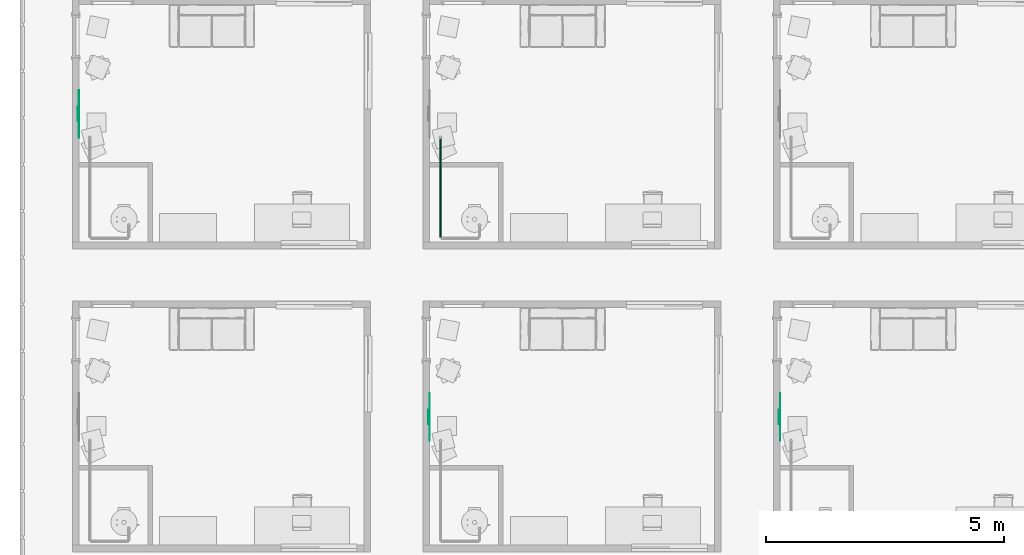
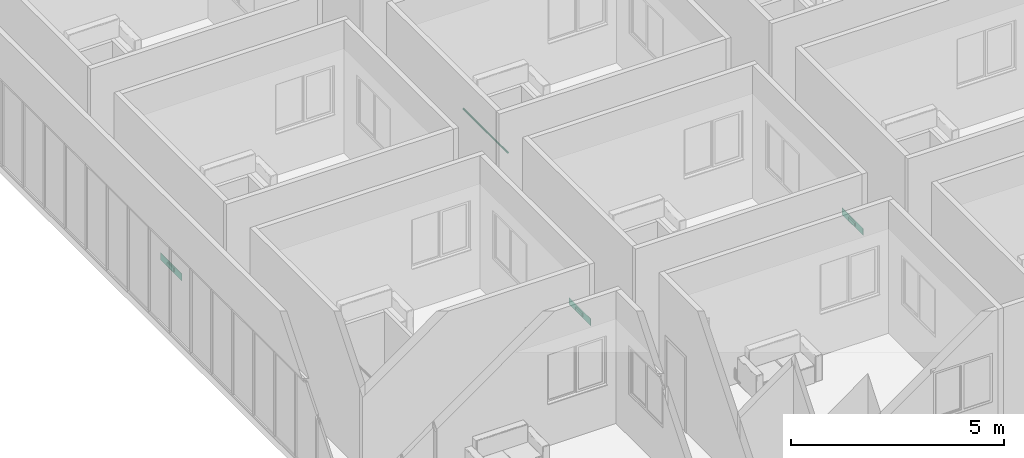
# One storey, part 18 of 72: 3 air terminals, 1 pipe segment.
"""IFC4 building model written with IfcOpenShell, lengths in centimetres."""

import ifcopenshell
import ifcopenshell.guid

model = None  # the IFC model being written
_history = None  # IfcOwnerHistory: only IFC2X3 demands one
_inside = {}  # id of a spatial element -> (the spatial element, [elements in it])
_under = {}  # id of a project, library or spatial element -> (it, [spatial elements below it])
_declared = {}  # id of a project -> (the project, [libraries it declares])
_typed = {}  # id of a type object -> (the type object, [elements of that type])
_made_of = {}  # id of a material, layer set ... -> (it, [elements and type objects made of it])


def new_model(schema):
    """Start an empty IFC model of exactly this schema.

    Asked for "IFC4X3", IfcOpenShell would pick the latest addendum, in which some entities
    have other attributes; the version numbers below select the first issue.
    IFC2X3 requires an IfcOwnerHistory on every rooted entity: one is made here for all.
    """
    global model, _history
    if schema == "IFC4X3":
        model = ifcopenshell.file(schema_version=(4, 3, 0, 0))
    else:
        model = ifcopenshell.file(schema=schema)
    _inside.clear()
    _under.clear()
    _declared.clear()
    _typed.clear()
    _made_of.clear()
    _history = None
    if model.schema == "IFC2X3":
        org = make("IfcOrganization", Name="unknown")
        user = make(
            "IfcPersonAndOrganization",
            ThePerson=make("IfcPerson", FamilyName="unknown"),
            TheOrganization=org,
        )
        app = make(
            "IfcApplication",
            ApplicationDeveloper=org,
            Version="unknown",
            ApplicationFullName="unknown",
            ApplicationIdentifier="unknown",
        )
        _history = make(
            "IfcOwnerHistory",
            OwningUser=user,
            OwningApplication=app,
            ChangeAction="ADDED",
            CreationDate=0,
        )
    return model


def make(cls, **values):
    """One entity of the class cls with the attributes given. An attribute that is None is left unset."""
    return model.create_entity(
        cls, **{name: value for name, value in values.items() if value is not None}
    )


def entity(cls, *values):
    """Any entity or typed value of the class cls, its attributes in the order of the schema. None: left unset."""
    e = model.create_entity(cls)
    for i, value in enumerate(values):
        if value is not None:
            e[i] = value
    return e


def rooted(cls, **values):
    """An entity with a GlobalId (a new one), such as an element, a storey or a relation."""
    return make(cls, GlobalId=ifcopenshell.guid.new(), OwnerHistory=_history, **values)


def si_unit(unit_type, name, prefix=None):
    """IfcSIUnit, for example si_unit("LENGTHUNIT", "METRE", prefix="MILLI")."""
    return make("IfcSIUnit", UnitType=unit_type, Prefix=prefix, Name=name)


def converted_unit(unit_type, name, factor, base, dimensions=None, offset=None):
    """IfcConversionBasedUnit, such as the inch: factor (a typed value) times the base unit."""
    return make(
        "IfcConversionBasedUnit"
        if offset is None
        else "IfcConversionBasedUnitWithOffset",
        ConversionOffset=offset,
        Dimensions=None
        if dimensions is None
        else entity("IfcDimensionalExponents", *dimensions),
        UnitType=unit_type,
        Name=name,
        ConversionFactor=make(
            "IfcMeasureWithUnit", ValueComponent=factor, UnitComponent=base
        ),
    )


def derived_unit(unit_type, elements):
    """IfcDerivedUnit: a product of units, each with its exponent."""
    return make(
        "IfcDerivedUnit",
        Elements=[
            make("IfcDerivedUnitElement", Unit=unit, Exponent=power)
            for unit, power in elements
        ],
        UnitType=unit_type,
    )


def assignment(units):
    """IfcUnitAssignment: the units of a project."""
    return None if units is None else make("IfcUnitAssignment", Units=units)


def point(xyz):
    """IfcCartesianPoint."""
    return None if xyz is None else make("IfcCartesianPoint", Coordinates=xyz)


def direction(xyz):
    """IfcDirection."""
    return None if xyz is None else make("IfcDirection", DirectionRatios=xyz)


def frame(location, z_axis=None, x_axis=None):
    """IfcAxis2Placement3D, a coordinate frame: its origin and axes. An axis left out is left unset."""
    return make(
        "IfcAxis2Placement3D",
        Location=point(location),
        Axis=direction(z_axis),
        RefDirection=direction(x_axis),
    )


def origin():
    """The frame at (0, 0, 0) with its axes left unset."""
    return frame((0.0, 0.0, 0.0))


def place(relative_to, where):
    """IfcLocalPlacement: puts the frame where relative to a parent placement (None: the world)."""
    return make(
        "IfcLocalPlacement", PlacementRelTo=relative_to, RelativePlacement=where
    )


def context(
    kind, dimensions, precision=None, world=None, true_north=None, identifier=None
):
    """IfcGeometricRepresentationContext, for example the 3D "Model" context."""
    return make(
        "IfcGeometricRepresentationContext",
        ContextIdentifier=identifier,
        ContextType=kind,
        CoordinateSpaceDimension=dimensions,
        Precision=precision,
        WorldCoordinateSystem=world,
        TrueNorth=true_north,
    )


def subcontext(parent, identifier, kind, view, scale=None):
    """IfcGeometricRepresentationSubContext, for example "Body" below "Model"."""
    return make(
        "IfcGeometricRepresentationSubContext",
        ContextIdentifier=identifier,
        ContextType=kind,
        ParentContext=parent,
        TargetScale=scale,
        TargetView=view,
    )


def project(units=None, contexts=None):
    """IfcProject with its units and contexts."""
    return rooted(
        "IfcProject",
        Name="project",
        RepresentationContexts=contexts,
        UnitsInContext=assignment(units),
    )


def spatial(cls, under=None, at=None, **own):
    """A site, building, storey or space (cls), placed at a placement, below another one or the project."""
    s = rooted(cls, ObjectPlacement=at, **own)
    if under is not None:
        _under.setdefault(under.id(), (under, []))[1].append(s)
    return s


def point_list(points):
    """IfcCartesianPointList2D or 3D."""
    cls = (
        "IfcCartesianPointList2D" if len(points[0]) == 2 else "IfcCartesianPointList3D"
    )
    return make(cls, CoordList=points)


def arc(*indices):
    """IfcArcIndex: an arc through three numbered points of an indexed curve."""
    return model.create_entity("IfcArcIndex", indices)


def indexed_curve(points, segments=None, self_intersect=None):
    """IfcIndexedPolyCurve: lines and arcs through numbered points (the first is 1)."""
    return make(
        "IfcIndexedPolyCurve",
        Points=point_list(points),
        Segments=segments,
        SelfIntersect=self_intersect,
    )


def outline(outer, holes=None, kind="AREA"):
    """IfcArbitraryClosedProfileDef: a profile drawn as a closed curve; with holes, ...WithVoids."""
    if holes is None:
        return make("IfcArbitraryClosedProfileDef", ProfileType=kind, OuterCurve=outer)
    return make(
        "IfcArbitraryProfileDefWithVoids",
        ProfileType=kind,
        OuterCurve=outer,
        InnerCurves=holes,
    )


def extrude(swept, where, along, depth):
    """IfcExtrudedAreaSolid: the profile swept, set in the frame where, extruded along a direction by depth."""
    return make(
        "IfcExtrudedAreaSolid",
        SweptArea=swept,
        Position=where,
        ExtrudedDirection=direction(along),
        Depth=depth,
    )


def shape(context_of_items, identifier, shape_type, items):
    """IfcShapeRepresentation: the items that make up one representation, for example the "Body"."""
    return make(
        "IfcShapeRepresentation",
        ContextOfItems=context_of_items,
        RepresentationIdentifier=identifier,
        RepresentationType=shape_type,
        Items=items,
    )


def source(mapping_origin, context_of_items, identifier, shape_type, items):
    """IfcRepresentationMap: a shape defined once, which mapped items show again and again."""
    return make(
        "IfcRepresentationMap",
        MappingOrigin=mapping_origin,
        MappedRepresentation=shape(context_of_items, identifier, shape_type, items),
    )


def transform(
    local_origin,
    x_axis=None,
    y_axis=None,
    z_axis=None,
    scale=None,
    scale2=None,
    scale3=None,
    uniform=True,
):
    """IfcCartesianTransformationOperator3D, or its non-uniform kind. x_axis, y_axis, z_axis: its Axis1, 2, 3."""
    if uniform:
        return make(
            "IfcCartesianTransformationOperator3D",
            Axis1=direction(x_axis),
            Axis2=direction(y_axis),
            LocalOrigin=point(local_origin),
            Scale=scale,
            Axis3=direction(z_axis),
        )
    return make(
        "IfcCartesianTransformationOperator3DnonUniform",
        Axis1=direction(x_axis),
        Axis2=direction(y_axis),
        LocalOrigin=point(local_origin),
        Scale=scale,
        Axis3=direction(z_axis),
        Scale2=scale2,
        Scale3=scale3,
    )


def mapped(mapping_source, mapping_target):
    """IfcMappedItem: shows the shape of a source again, moved by a transform."""
    return make(
        "IfcMappedItem", MappingSource=mapping_source, MappingTarget=mapping_target
    )


def material(Name=None, Category=None):
    """IfcMaterial."""
    return make("IfcMaterial", Name=Name, Category=Category)


def constituent(of_material, Name=None, Category=None, fraction=None):
    """IfcMaterialConstituent: one of the materials an element consists of."""
    return make(
        "IfcMaterialConstituent",
        Name=Name,
        Material=of_material,
        Fraction=fraction,
        Category=Category,
    )


def constituent_set(constituents=None, Name=None):
    """IfcMaterialConstituentSet."""
    return make(
        "IfcMaterialConstituentSet", Name=Name, MaterialConstituents=constituents
    )


def made_of(thing, what):
    """Note that an element or type object is made of a material, layer set ...; save() writes the relation."""
    if what is not None:
        _made_of.setdefault(what.id(), (what, []))[1].append(thing)
    return thing


def type_object(cls, material=None, **own):
    """A type object (cls), such as IfcWallType, which elements share."""
    return made_of(rooted(cls, **own), material)


def type_shapes(of_type, sources):
    """Give a type object the sources (RepresentationMaps) that its elements show as mapped items."""
    of_type.RepresentationMaps = sources


def element(
    cls,
    number,
    at=None,
    inside=None,
    cuts=None,
    type_object=None,
    material=None,
    context=None,
    identifier="Body",
    shape_type=None,
    held_by="IfcProductDefinitionShape",
    body=None,
    shapes=None,
    **own,
):
    """One element of the class cls, such as IfcWall. Its Tag is "e" and its number.

    at: its placement. inside: the storey or other place that contains it. cuts: it is an
    opening in that element (IfcRelVoidsElement). A single representation is given by context,
    identifier, shape_type and body (its items); several are given by shapes. held_by: the class
    of the entity that holds the representations. save() writes the other relations.
    """
    e = rooted(cls, Tag="e%d" % number, ObjectPlacement=at, **own)
    if body is not None:
        shapes = [shape(context, identifier, shape_type, body)]
    if shapes is not None:
        e.Representation = make(held_by, Representations=shapes)
    if inside is not None:
        _inside.setdefault(inside.id(), (inside, []))[1].append(e)
    if cuts is not None:
        rooted(
            "IfcRelVoidsElement", RelatingBuildingElement=cuts, RelatedOpeningElement=e
        )
    if type_object is not None:
        _typed.setdefault(type_object.id(), (type_object, []))[1].append(e)
    return made_of(e, material)


def aggregate(whole, parts):
    """IfcRelAggregates: a whole, such as a stair, and the parts it consists of."""
    return rooted("IfcRelAggregates", RelatingObject=whole, RelatedObjects=parts)


def save(model, path):
    """Write the relations noted so far, then the file.

    IfcRelAggregates (storeys below a building ...), IfcRelContainedInSpatialStructure (elements
    in a storey), IfcRelDefinesByType, IfcRelAssociatesMaterial and IfcRelDeclares: one each for
    every whole, place, type object, material and project.
    """
    for whole, parts in _under.values():
        aggregate(whole, parts)
    for where, things in _inside.values():
        rooted(
            "IfcRelContainedInSpatialStructure",
            RelatedElements=things,
            RelatingStructure=where,
        )
    for kind, things in _typed.values():
        rooted("IfcRelDefinesByType", RelatedObjects=things, RelatingType=kind)
    for what, things in _made_of.values():
        rooted("IfcRelAssociatesMaterial", RelatedObjects=things, RelatingMaterial=what)
    for by, libraries in _declared.values():
        rooted("IfcRelDeclares", RelatingContext=by, RelatedDefinitions=libraries)
    model.write(path)


model = new_model("IFC4")

# Units and contexts
model_context = context("Model", 3, precision=0.001, world=origin(), true_north=direction((6.123233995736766e-17, 1.0)))
body_context = subcontext(model_context, "Body", "Model", "MODEL_VIEW")
ifc_project = project(units=[si_unit("LENGTHUNIT", "METRE", prefix="CENTI"), si_unit("AREAUNIT", "SQUARE_METRE"), si_unit("VOLUMEUNIT", "CUBIC_METRE"), derived_unit("THERMALTRANSMITTANCEUNIT", [(si_unit("MASSUNIT", "GRAM", prefix="KILO"), 1), (si_unit("THERMODYNAMICTEMPERATUREUNIT", "KELVIN"), -1), (si_unit("TIMEUNIT", "SECOND"), -3)]), converted_unit("PLANEANGLEUNIT", "DEGREE", entity("IfcPlaneAngleMeasure", 0.017453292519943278), si_unit("PLANEANGLEUNIT", "RADIAN"), dimensions=[0, 0, 0, 0, 0, 0, 0]), derived_unit("MASSDENSITYUNIT", [(si_unit("MASSUNIT", "GRAM", prefix="KILO"), 1), (si_unit("LENGTHUNIT", "METRE"), -3)]), derived_unit("VAPORPERMEABILITYUNIT", [(si_unit("LENGTHUNIT", "METRE"), -1), (si_unit("TIMEUNIT", "SECOND"), 1)]), derived_unit("USERDEFINED", [(si_unit("MASSUNIT", "GRAM", prefix="KILO"), 1), (si_unit("TIMEUNIT", "SECOND"), -3), (si_unit("LENGTHUNIT", "METRE"), 3), (si_unit("ELECTRICCURRENTUNIT", "AMPERE"), -2)]), derived_unit("SPECIFICHEATCAPACITYUNIT", [(si_unit("THERMODYNAMICTEMPERATUREUNIT", "KELVIN"), -1), (si_unit("LENGTHUNIT", "METRE"), 2), (si_unit("TIMEUNIT", "SECOND"), -2)]), derived_unit("THERMALCONDUCTANCEUNIT", [(si_unit("MASSUNIT", "GRAM", prefix="KILO"), 1), (si_unit("THERMODYNAMICTEMPERATUREUNIT", "KELVIN"), -1), (si_unit("TIMEUNIT", "SECOND"), -3), (si_unit("LENGTHUNIT", "METRE"), 1)]), si_unit("PRESSUREUNIT", "PASCAL"), derived_unit("MODULUSOFELASTICITYUNIT", [(si_unit("MASSUNIT", "GRAM", prefix="KILO"), 1), (si_unit("LENGTHUNIT", "METRE"), -1), (si_unit("TIMEUNIT", "SECOND"), -2)]), derived_unit("THERMALEXPANSIONCOEFFICIENTUNIT", [(si_unit("THERMODYNAMICTEMPERATUREUNIT", "KELVIN"), -1)])], contexts=[model_context])

# Site, building, storey, space
site_placement = place(None, origin())
site = spatial("IfcSite", under=ifc_project, at=site_placement, Name="Default", CompositionType="ELEMENT")
building_placement = place(site_placement, origin())
building = spatial("IfcBuilding", under=site, at=building_placement, Name="IDS Escape Game Building", CompositionType="ELEMENT")
storey_placement = place(building_placement, frame((0.0, 0.0, 800.0)))
storey = spatial("IfcBuildingStorey", under=building, at=storey_placement, Name="02_Second Floor", CompositionType="ELEMENT", Elevation=800.0)
space_1_placement = place(storey_placement, origin())
space_1 = spatial("IfcSpace", under=storey, at=space_1_placement, Name="79", CompositionType="ELEMENT", PredefinedType="NOTDEFINED")

# Air terminal
ifc_material_1 = material(Name="TB_LVC_referentievlak_00_gen_BERSnl", Category="BE Default")
ifc_constituent_1 = constituent(ifc_material_1, Name="TB_LVC_referentievlak_00_gen_BERSnl", Category="BE Default", fraction=0.00014157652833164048)
ifc_material_2 = material(Name="ARC_FME.h2_staal_00_gen_BERSnl", Category="h - metaal")
ifc_constituent_2 = constituent(ifc_material_2, Name="ARC_FME.h2_staal_00_gen_BERSnl", Category="h - metaal", fraction=0.9998584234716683)
ifc_constituent_set_1 = constituent_set(constituents=[ifc_constituent_1, ifc_constituent_2])
ifc_constituent_3 = constituent(ifc_material_1, Name="BE Referentievlak", Category="BE Default", fraction=0.00014157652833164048)
ifc_constituent_4 = constituent(ifc_material_2, Name="Terminals", Category="h - metaal", fraction=0.9998584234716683)
ifc_constituent_set_2 = constituent_set(constituents=[ifc_constituent_3, ifc_constituent_4])
air_terminal_type = type_object("IfcAirTerminalType", Name="TB_57_AIR_FB_aanzuigrooster - 1 rechthoekige aansluiting - calculated flow_gen_BERSnl:Air Terminal - Exhaust", PredefinedType="GRILLE", material=ifc_constituent_set_2)
shared_shape = source(origin(), body_context, "Body", "SweptSolid", [
    extrude(outline(indexed_curve([(-0.5, -2.0290176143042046e-15), (6.8507733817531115e-16, -0.5000000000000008), (0.5, 2.0290176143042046e-15), (-5.361679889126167e-16, 0.49999999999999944)], segments=[arc(1, 2, 3), arc(3, 4, 1)], self_intersect=False)), frame((0.0, 0.0, 0.0), z_axis=(1.7453292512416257e-05, 0.0, 1.0), x_axis=(0.0, 1.0, 0.0)), (0.0, 0.0, 1.0), 0.09999999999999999),
    extrude(outline(indexed_curve([(-14.900000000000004, -4.9), (14.900000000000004, -4.9), (14.900000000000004, 4.9), (-14.900000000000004, 4.9), (-14.900000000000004, -4.9)], self_intersect=False)), frame((-4.886921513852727e-05, 0.0, -2.7999999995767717)), (0.0, 0.0, 1.0), 2.7999999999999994),
    extrude(outline(indexed_curve([(-50.0, -10.0), (50.0, -10.0), (50.0, 10.0), (-50.0, 10.0), (-50.0, -10.0)], self_intersect=False)), frame((0.0, 0.0, 0.0), z_axis=(0.0, 0.0, 1.0), x_axis=(-1.0, 0.0, 0.0)), (0.0, 0.0, 1.0), 0.6999999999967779),
])
type_shapes(air_terminal_type, [shared_shape])
air_terminal_1_placement = place(space_1_placement, frame((745.0, 921.0, 24.0), z_axis=(1.0, 0.0, 0.0), x_axis=(0.0, 1.0, 0.0)))
element("IfcAirTerminal", 1, at=air_terminal_1_placement, inside=space_1, type_object=air_terminal_type, material=ifc_constituent_set_1, Name="TB_57_AIR_FB_aanzuigrooster - 1 rechthoekige aansluiting - calculated flow_gen_BERSnl:Air Terminal - Exhaust", ObjectType="TB_57_AIR_FB_aanzuigrooster - 1 rechthoekige aansluiting - calculated flow_gen_BERSnl:Air Terminal - Exhaust", PredefinedType="GRILLE", context=body_context, shape_type="MappedRepresentation", body=[
    mapped(shared_shape, transform((0.0, 0.0, 0.0), scale=1.0)),
])

# Space
space_2_placement = place(storey_placement, origin())
space_2 = spatial("IfcSpace", under=storey, at=space_2_placement, Name="80", CompositionType="ELEMENT", PredefinedType="NOTDEFINED")

# Air terminal
ifc_constituent_5 = constituent(ifc_material_1, Name="TB_LVC_referentievlak_00_gen_BERSnl", Category="BE Default", fraction=0.00014157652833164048)
ifc_constituent_6 = constituent(ifc_material_2, Name="ARC_FME.h2_staal_00_gen_BERSnl", Category="h - metaal", fraction=0.9998584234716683)
ifc_constituent_set_3 = constituent_set(constituents=[ifc_constituent_5, ifc_constituent_6])
air_terminal_2_placement = place(space_2_placement, frame((1483.0, 921.0, 24.0), z_axis=(1.0, 0.0, 0.0), x_axis=(0.0, 1.0, 0.0)))
element("IfcAirTerminal", 2, at=air_terminal_2_placement, inside=space_2, type_object=air_terminal_type, material=ifc_constituent_set_3, Name="TB_57_AIR_FB_aanzuigrooster - 1 rechthoekige aansluiting - calculated flow_gen_BERSnl:Air Terminal - Exhaust", ObjectType="TB_57_AIR_FB_aanzuigrooster - 1 rechthoekige aansluiting - calculated flow_gen_BERSnl:Air Terminal - Exhaust", PredefinedType="GRILLE", context=body_context, shape_type="MappedRepresentation", body=[
    mapped(shared_shape, transform((0.0, 0.0, 0.0), scale=1.0)),
])

# Space
space_3_placement = place(storey_placement, origin())
space_3 = spatial("IfcSpace", under=storey, at=space_3_placement, Name="85", CompositionType="ELEMENT", PredefinedType="NOTDEFINED")

# Air terminal
ifc_constituent_7 = constituent(ifc_material_1, Name="TB_LVC_referentievlak_00_gen_BERSnl", Category="BE Default", fraction=0.00014157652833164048)
ifc_constituent_8 = constituent(ifc_material_2, Name="ARC_FME.h2_staal_00_gen_BERSnl", Category="h - metaal", fraction=0.9998584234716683)
ifc_constituent_set_4 = constituent_set(constituents=[ifc_constituent_7, ifc_constituent_8])
air_terminal_3_placement = place(space_3_placement, frame((7.0, 1559.0, 24.0), z_axis=(1.0, 0.0, 0.0), x_axis=(0.0, 1.0, 0.0)))
element("IfcAirTerminal", 3, at=air_terminal_3_placement, inside=space_3, type_object=air_terminal_type, material=ifc_constituent_set_4, Name="TB_57_AIR_FB_aanzuigrooster - 1 rechthoekige aansluiting - calculated flow_gen_BERSnl:Air Terminal - Exhaust", ObjectType="TB_57_AIR_FB_aanzuigrooster - 1 rechthoekige aansluiting - calculated flow_gen_BERSnl:Air Terminal - Exhaust", PredefinedType="GRILLE", context=body_context, shape_type="MappedRepresentation", body=[
    mapped(shared_shape, transform((0.0, 0.0, 0.0), scale=1.0)),
])

# Pipe segment
pipe_segment_type = type_object("IfcPipeSegmentType", Name="Pipe Types:Piping Aluminum", PredefinedType="NOTDEFINED")
pipe_segment_placement = place(storey_placement, origin())
element("IfcPipeSegment", 4, at=pipe_segment_placement, inside=storey, type_object=pipe_segment_type, Name="Pipe Types:Piping Aluminum", ObjectType="Pipe Types:Piping Aluminum", PredefinedType="NOTDEFINED", context=body_context, shape_type="SweptSolid", body=[
    extrude(outline(indexed_curve([(2.412999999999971, 0.0), (1.7062486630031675, 1.7062486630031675), (0.0, 2.412999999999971), (-1.7062486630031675, 1.7062486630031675), (-2.412999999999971, 0.0), (-1.7062486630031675, -1.7062486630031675), (0.0, -2.412999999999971), (1.7062486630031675, -1.7062486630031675)], segments=[arc(1, 2, 3), arc(3, 4, 5), arc(5, 6, 7), arc(7, 8, 1)], self_intersect=False)), frame((768.0467168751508, 1298.364827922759, 242.0), z_axis=(0.0, 1.0, 0.0), x_axis=(1.0, 0.0, 0.0)), (0.0, 0.0, 1.0), 208.80000000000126),
])

save(model, "model.ifc")
